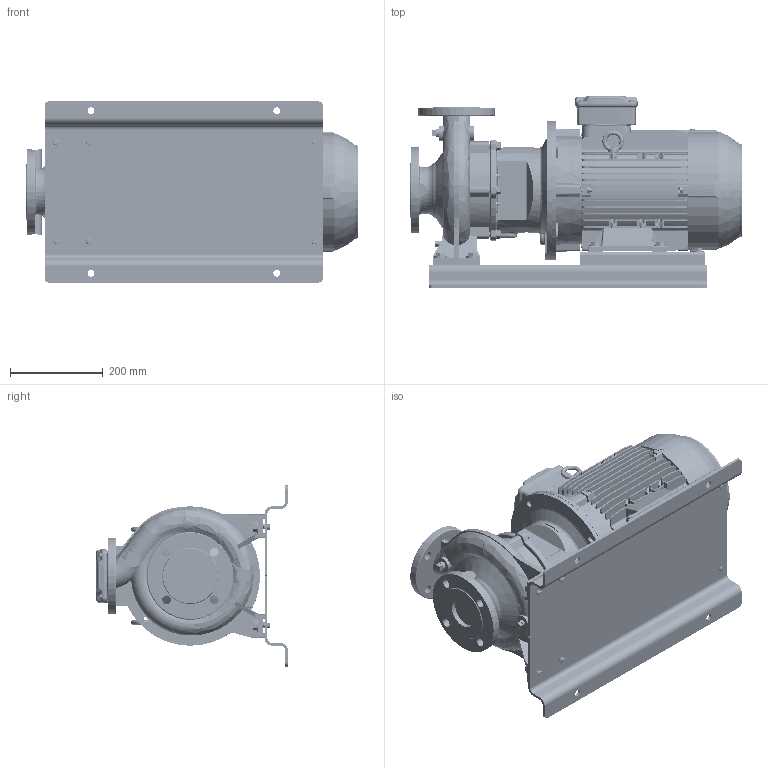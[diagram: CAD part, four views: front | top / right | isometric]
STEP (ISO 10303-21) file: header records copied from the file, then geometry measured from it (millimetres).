
FILE_DESCRIPTION (( 'STEP AP214' ), '1' );
FILE_NAME ('GSD2 50-160_5.5 & 7.5_(132S)_W21_BP.STEP', '2024-04-26T02:01:50', ( '' ), ( '' ), 'SwSTEP 2.0', 'SolidWorks 2019', '' );
FILE_SCHEMA (( 'AUTOMOTIVE_DESIGN' ));
Length unit declared in the file: millimetre
Products named in the file (20): GSD2  50-160_5.5 & 7.5_(132S)_W21_BP; Parametric bolt and washer_SFT-A299B; Parametric bolt_SFT-A257B; Parametric bolt and washer_SFT-A253B; 132S ALIE3_W21T_B35; Parametric bolt and washer_SFT-A275B; Parametric bolt_SFT-A299B; Parametric bolt_SFT-A253B; Parametric Flat Washer_M12; 140_178 x 28 - 271472025; N3S3 GSDA-337 F1-1832909-00; Parametric Flat Washer_M10; 50-160-132S
Assembly tree (35 placements, depth 3):
  GSD2  50-160_5.5 & 7.5_(132S)_W21_BP
    50-160-132S
    N3S3 GSDA-337 F1-1832909-00
    140_178 x 28 - 271472025  x2
    Parametric bolt and washer_SFT-A299B
      Parametric bolt_SFT-A299B
      Parametric Flat Washer_M12
    Parametric bolt and washer_SFT-A299B
      Parametric bolt_SFT-A299B
      Parametric Flat Washer_M12
    Parametric bolt and washer_SFT-A299B
      Parametric bolt_SFT-A299B
      Parametric Flat Washer_M12
    Parametric bolt and washer_SFT-A299B
      Parametric bolt_SFT-A299B
      Parametric Flat Washer_M12
    Parametric bolt and washer_SFT-A275B
      Parametric bolt_SFT-A257B
      Parametric Flat Washer_M10
    Parametric bolt and washer_SFT-A275B
      Parametric bolt_SFT-A257B
      Parametric Flat Washer_M10
    Parametric bolt and washer_SFT-A253B
      Parametric bolt_SFT-A253B
      Parametric Flat Washer_M10
    Parametric bolt and washer_SFT-A253B
      Parametric bolt_SFT-A253B
      Parametric Flat Washer_M10
    Parametric bolt and washer_SFT-A253B
      Parametric bolt_SFT-A253B
      Parametric Flat Washer_M10
    Parametric bolt and washer_SFT-A253B
      Parametric bolt_SFT-A253B
      Parametric Flat Washer_M10
    132S ALIE3_W21T_B35
Bounding box: 714.8 x 413 x 390 mm (x, y, z)
Volume: 29264858.1 mm3; surface area: 2455667.6 mm2
Topology: 36 solids, 36 shells, 4856 faces, 12682 edges, 8246 vertices
Faces by surface type: plane 2901, cylinder 1149, torus 303, bspline 256, cone 215, sphere 32
Entity records: 174820 total; most frequent: CARTESIAN_POINT 56246, ORIENTED_EDGE 23128, DIRECTION 21032, EDGE_CURVE 11564, LINE 7748, VECTOR 7748, VERTEX_POINT 7530, AXIS2_PLACEMENT_3D 6642
